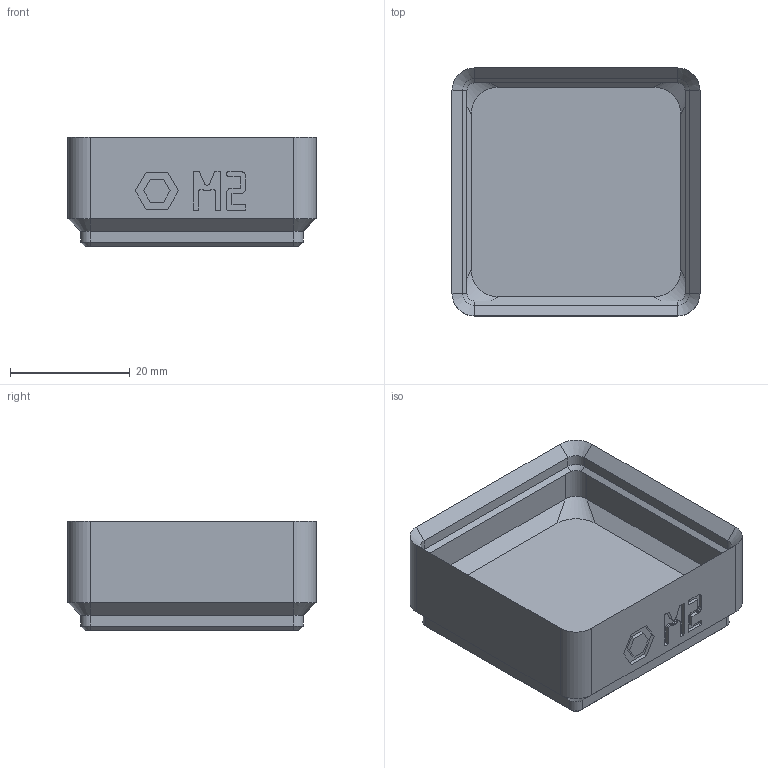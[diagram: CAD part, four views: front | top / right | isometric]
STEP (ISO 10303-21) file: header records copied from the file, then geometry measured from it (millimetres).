
FILE_DESCRIPTION(('Open CASCADE Model'),'2;1');
FILE_NAME('bin_nut_m2','2026-11-03T16:47:26',('Author'),('Open CASCADE') ,'Open CASCADE STEP processor 8.0','build123d','Unknown');
FILE_SCHEMA(('AUTOMOTIVE_DESIGN { 1 0 10303 214 1 1 1 1 }'));
Length unit declared in the file: millimetre
Products named in the file (1): bin_nut_m2
Bounding box: 41.5 x 41.5 x 18.4 mm (x, y, z)
Volume: 11001.1 mm3; surface area: 8273.8 mm2
Topology: 1 solids, 1 shells, 340 faces, 919 edges, 594 vertices
Faces by surface type: plane 292, cylinder 24, cone 16, bspline 8
Full cylindrical faces by diameter (mm): 3.2 x4, 6.5 x4
Entity records: 21806 total; most frequent: CARTESIAN_POINT 4450, DIRECTION 2825, LINE 2011, VECTOR 2011, ORIENTED_EDGE 1838, PCURVE 1838, DEFINITIONAL_REPRESENTATION 1838, EDGE_CURVE 919
